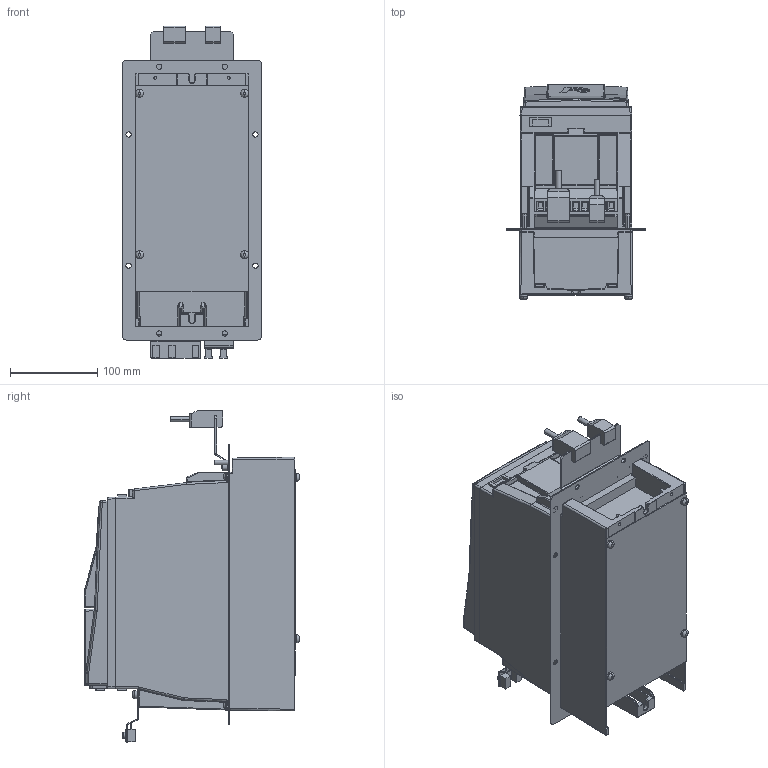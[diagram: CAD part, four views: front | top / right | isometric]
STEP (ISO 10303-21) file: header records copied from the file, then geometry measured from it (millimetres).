
FILE_DESCRIPTION (( 'STEP AP214' ), '1' );
FILE_NAME ('F6-2TR5-P0511.STEP', '2020-11-30T09:23:08', ( '' ), ( '' ), 'SwSTEP 2.0', 'SolidWorks 2019', '' );
FILE_SCHEMA (( 'AUTOMOTIVE_DESIGN' ));
Length unit declared in the file: millimetre
Products named in the file (1): F6-2TR5-P0511
Bounding box: 160 x 245.65 x 379.5 mm (x, y, z)
Volume: 7195627.1 mm3; surface area: 372392 mm2
Topology: 4 solids, 4 shells, 1542 faces, 3825 edges, 2304 vertices
Faces by surface type: plane 722, cylinder 448, bspline 229, torus 65, sphere 50, cone 28
Entity records: 53032 total; most frequent: CARTESIAN_POINT 18496, ORIENTED_EDGE 7522, DIRECTION 6618, EDGE_CURVE 3761, VERTEX_POINT 2304, AXIS2_PLACEMENT_3D 2225, VECTOR 2168, LINE 2168
